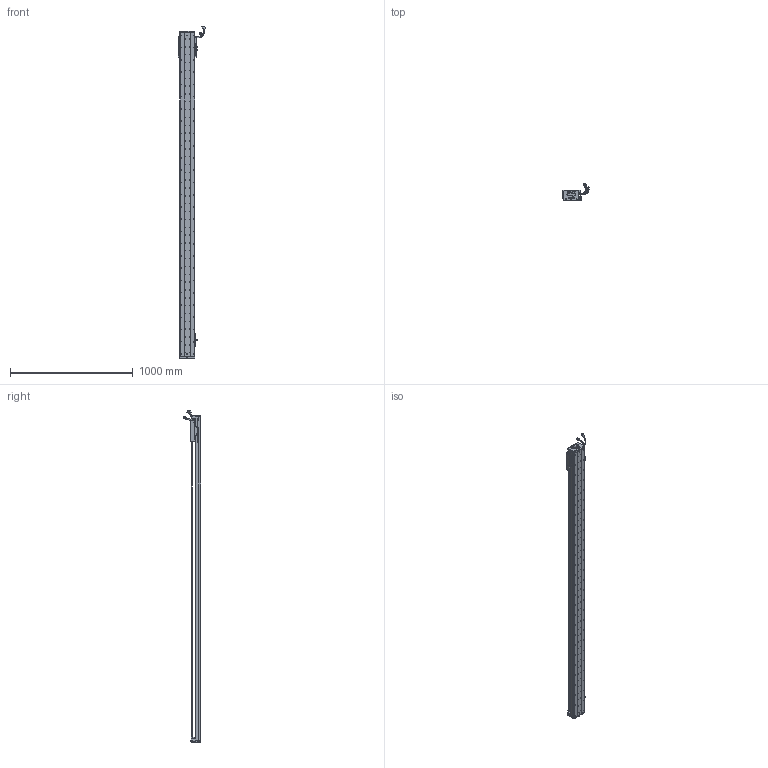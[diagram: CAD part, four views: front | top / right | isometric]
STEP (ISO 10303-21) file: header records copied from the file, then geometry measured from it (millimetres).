
FILE_DESCRIPTION (( 'STEP AP203' ), '1' );
FILE_NAME ('Z2-RY120D-1-L500-B-K.SLDASM_2400.step', '2021-05-17T05:38:50', ( '盈信电脑' ), ( '东莞市道滘镇水果街19号' ), 'SwSTEP 2.0', 'SolidWorks 2016', '' );
FILE_SCHEMA (( 'CONFIG_CONTROL_DESIGN' ));
Length unit declared in the file: millimetre
Products named in the file (37): Z2-RY120-500-倰第菁釱_2400; SCALE-Part-1; HARNESS; Z2-RY120-L500詩湍100mm遵_2400; 榋妏寠巭燃_暯_M2_2; Z-120詩湍傷裔啣; 140蚥薯蝶輸; HOLDER0; SCALE; SCREW-M1.7-1; SCREW-M1.6; Z2-RY120铝滑块（21款）; Z-RY120D詩湍奻揤裔; SCREW-M1.7; SCREW-M1.6-1; LABEL-Part-1; SCREW-M1.6-2; 覜茼ん672; HARNESS-Part-1; Z-RY120D詩湍狟揤裔; SEAL; PBU_SHEET; PSLH080_PSLF2; 140雄赽晤鎢ん堤盄; SHIELDPLATE; COVER-Part-1; 672嫖萇羲壽假蚾釱; SCREW-M1.6-3; SEAL-Part-1; Z2-RY120D-1-L500-B-K.SLDASM_2400; 080黍杅芛假蚾釱21遴; LABEL; RY100FB-遵嫖萇覜茼え; 120-Z-臏賑輸盄裔(21遴); SCALE-Part-2; HARNESS-Part-2; COVER
Assembly tree (43 placements, depth 4):
  Z2-RY120D-1-L500-B-K.SLDASM_2400
    Z2-RY120-500-倰第菁釱_2400
    覜茼ん672  x3
    672嫖萇羲壽假蚾釱  x2
    Z2-RY120铝滑块（21款）
    PSLH080_PSLF2
      SCALE
        SCALE-Part-1
        SCALE-Part-2
      HARNESS
        HARNESS-Part-1
        HARNESS-Part-2
      LABEL
        LABEL-Part-1
      COVER
        COVER-Part-1
      SEAL
        SEAL-Part-1
      榋妏寠巭燃_暯_M2_2
      SHIELDPLATE
      SCREW-M1.7
      SCREW-M1.7-1
      PBU_SHEET
      SCREW-M1.6
      SCREW-M1.6-1
      SCREW-M1.6-2
      SCREW-M1.6-3
      HOLDER0
    080黍杅芛假蚾釱21遴
    120-Z-臏賑輸盄裔(21遴)
    140雄赽晤鎢ん堤盄
    140蚥薯蝶輸  x2
    RY100FB-遵嫖萇覜茼え
    Z-120詩湍傷裔啣  x2
    Z-RY120D詩湍奻揤裔  x2
    Z-RY120D詩湍狟揤裔  x2
    Z2-RY120-L500詩湍100mm遵_2400
Bounding box: 222.83 x 140.94 x 2708.99 mm (x, y, z)
Volume: 6188008.9 mm3; surface area: 2192675.4 mm2
Topology: 38 solids, 38 shells, 3709 faces, 10588 edges, 6687 vertices
Faces by surface type: cylinder 1954, plane 1255, cone 378, torus 69, bspline 53
Entity records: 125164 total; most frequent: CARTESIAN_POINT 38642, ORIENTED_EDGE 17948, DIRECTION 16368, EDGE_CURVE 8974, AXIS2_PLACEMENT_3D 6048, VERTEX_POINT 5807, VECTOR 4272, LINE 4272
